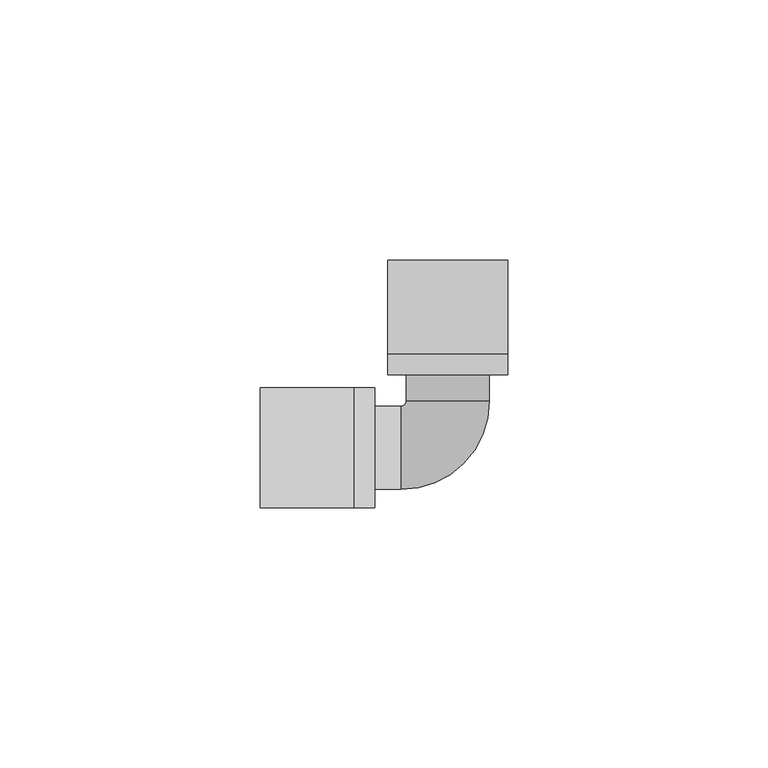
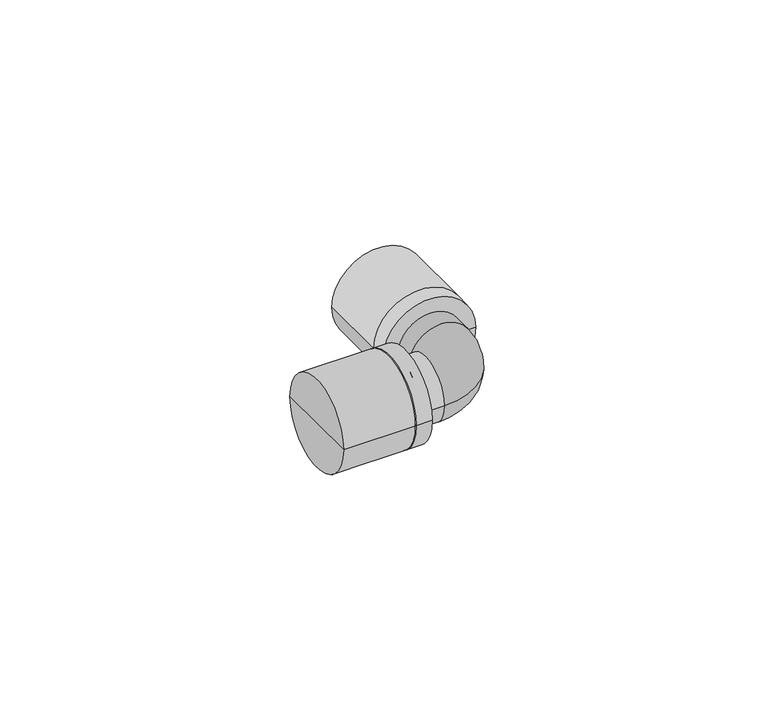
"""IFC4 building model written with IfcOpenShell, lengths in millimetres: pipe fitting geometry, KAN-therm Push 18x2 kolano PPSU : KAN-therm Push 18x2 kolano PPSU."""

import ifcopenshell
import ifcopenshell.guid

model = None  # the IFC model being written
_history = None  # IfcOwnerHistory: only IFC2X3 demands one
_inside = {}  # id of a spatial element -> (the spatial element, [elements in it])
_under = {}  # id of a project, library or spatial element -> (it, [spatial elements below it])
_declared = {}  # id of a project -> (the project, [libraries it declares])
_typed = {}  # id of a type object -> (the type object, [elements of that type])
_made_of = {}  # id of a material, layer set ... -> (it, [elements and type objects made of it])


def new_model(schema):
    """Start an empty IFC model of exactly this schema.

    Asked for "IFC4X3", IfcOpenShell would pick the latest addendum, in which some entities
    have other attributes; the version numbers below select the first issue.
    IFC2X3 requires an IfcOwnerHistory on every rooted entity: one is made here for all.
    """
    global model, _history
    if schema == "IFC4X3":
        model = ifcopenshell.file(schema_version=(4, 3, 0, 0))
    else:
        model = ifcopenshell.file(schema=schema)
    _inside.clear()
    _under.clear()
    _declared.clear()
    _typed.clear()
    _made_of.clear()
    _history = None
    if model.schema == "IFC2X3":
        org = make("IfcOrganization", Name="unknown")
        user = make(
            "IfcPersonAndOrganization",
            ThePerson=make("IfcPerson", FamilyName="unknown"),
            TheOrganization=org,
        )
        app = make(
            "IfcApplication",
            ApplicationDeveloper=org,
            Version="unknown",
            ApplicationFullName="unknown",
            ApplicationIdentifier="unknown",
        )
        _history = make(
            "IfcOwnerHistory",
            OwningUser=user,
            OwningApplication=app,
            ChangeAction="ADDED",
            CreationDate=0,
        )
    return model


def make(cls, **values):
    """One entity of the class cls with the attributes given. An attribute that is None is left unset."""
    return model.create_entity(
        cls, **{name: value for name, value in values.items() if value is not None}
    )


def rooted(cls, **values):
    """An entity with a GlobalId (a new one), such as an element, a storey or a relation."""
    return make(cls, GlobalId=ifcopenshell.guid.new(), OwnerHistory=_history, **values)


def si_unit(unit_type, name, prefix=None):
    """IfcSIUnit, for example si_unit("LENGTHUNIT", "METRE", prefix="MILLI")."""
    return make("IfcSIUnit", UnitType=unit_type, Prefix=prefix, Name=name)


def assignment(units):
    """IfcUnitAssignment: the units of a project."""
    return None if units is None else make("IfcUnitAssignment", Units=units)


def point(xyz):
    """IfcCartesianPoint."""
    return None if xyz is None else make("IfcCartesianPoint", Coordinates=xyz)


def direction(xyz):
    """IfcDirection."""
    return None if xyz is None else make("IfcDirection", DirectionRatios=xyz)


def frame(location, z_axis=None, x_axis=None):
    """IfcAxis2Placement3D, a coordinate frame: its origin and axes. An axis left out is left unset."""
    return make(
        "IfcAxis2Placement3D",
        Location=point(location),
        Axis=direction(z_axis),
        RefDirection=direction(x_axis),
    )


def origin():
    """The frame at (0, 0, 0) with its axes left unset."""
    return frame((0.0, 0.0, 0.0))


def place(relative_to, where):
    """IfcLocalPlacement: puts the frame where relative to a parent placement (None: the world)."""
    return make(
        "IfcLocalPlacement", PlacementRelTo=relative_to, RelativePlacement=where
    )


def context(
    kind, dimensions, precision=None, world=None, true_north=None, identifier=None
):
    """IfcGeometricRepresentationContext, for example the 3D "Model" context."""
    return make(
        "IfcGeometricRepresentationContext",
        ContextIdentifier=identifier,
        ContextType=kind,
        CoordinateSpaceDimension=dimensions,
        Precision=precision,
        WorldCoordinateSystem=world,
        TrueNorth=true_north,
    )


def project(units=None, contexts=None):
    """IfcProject with its units and contexts."""
    return rooted(
        "IfcProject",
        Name="project",
        RepresentationContexts=contexts,
        UnitsInContext=assignment(units),
    )


def spatial(cls, under=None, at=None, **own):
    """A site, building, storey or space (cls), placed at a placement, below another one or the project."""
    s = rooted(cls, ObjectPlacement=at, **own)
    if under is not None:
        _under.setdefault(under.id(), (under, []))[1].append(s)
    return s


def circle_curve(where, radius):
    """IfcCircle in the frame where."""
    return make("IfcCircle", Position=where, Radius=radius)


def ellipse_curve(where, semi_axis1, semi_axis2):
    """IfcEllipse in the frame where."""
    return make(
        "IfcEllipse", Position=where, SemiAxis1=semi_axis1, SemiAxis2=semi_axis2
    )


def trimmed(basis, trim1, trim2, sense, master):
    """IfcTrimmedCurve: the piece of a basis curve between two trims."""
    return make(
        "IfcTrimmedCurve",
        BasisCurve=basis,
        Trim1=trim1,
        Trim2=trim2,
        SenseAgreement=sense,
        MasterRepresentation=master,
    )


def shape(context_of_items, identifier, shape_type, items):
    """IfcShapeRepresentation: the items that make up one representation, for example the "Body"."""
    return make(
        "IfcShapeRepresentation",
        ContextOfItems=context_of_items,
        RepresentationIdentifier=identifier,
        RepresentationType=shape_type,
        Items=items,
    )


def source(mapping_origin, context_of_items, identifier, shape_type, items):
    """IfcRepresentationMap: a shape defined once, which mapped items show again and again."""
    return make(
        "IfcRepresentationMap",
        MappingOrigin=mapping_origin,
        MappedRepresentation=shape(context_of_items, identifier, shape_type, items),
    )


def transform(
    local_origin,
    x_axis=None,
    y_axis=None,
    z_axis=None,
    scale=None,
    scale2=None,
    scale3=None,
    uniform=True,
):
    """IfcCartesianTransformationOperator3D, or its non-uniform kind. x_axis, y_axis, z_axis: its Axis1, 2, 3."""
    if uniform:
        return make(
            "IfcCartesianTransformationOperator3D",
            Axis1=direction(x_axis),
            Axis2=direction(y_axis),
            LocalOrigin=point(local_origin),
            Scale=scale,
            Axis3=direction(z_axis),
        )
    return make(
        "IfcCartesianTransformationOperator3DnonUniform",
        Axis1=direction(x_axis),
        Axis2=direction(y_axis),
        LocalOrigin=point(local_origin),
        Scale=scale,
        Axis3=direction(z_axis),
        Scale2=scale2,
        Scale3=scale3,
    )


def mapped(mapping_source, mapping_target):
    """IfcMappedItem: shows the shape of a source again, moved by a transform."""
    return make(
        "IfcMappedItem", MappingSource=mapping_source, MappingTarget=mapping_target
    )


def made_of(thing, what):
    """Note that an element or type object is made of a material, layer set ...; save() writes the relation."""
    if what is not None:
        _made_of.setdefault(what.id(), (what, []))[1].append(thing)
    return thing


def element(
    cls,
    number,
    at=None,
    inside=None,
    cuts=None,
    type_object=None,
    material=None,
    context=None,
    identifier="Body",
    shape_type=None,
    held_by="IfcProductDefinitionShape",
    body=None,
    shapes=None,
    **own,
):
    """One element of the class cls, such as IfcWall. Its Tag is "e" and its number.

    at: its placement. inside: the storey or other place that contains it. cuts: it is an
    opening in that element (IfcRelVoidsElement). A single representation is given by context,
    identifier, shape_type and body (its items); several are given by shapes. held_by: the class
    of the entity that holds the representations. save() writes the other relations.
    """
    e = rooted(cls, Tag="e%d" % number, ObjectPlacement=at, **own)
    if body is not None:
        shapes = [shape(context, identifier, shape_type, body)]
    if shapes is not None:
        e.Representation = make(held_by, Representations=shapes)
    if inside is not None:
        _inside.setdefault(inside.id(), (inside, []))[1].append(e)
    if cuts is not None:
        rooted(
            "IfcRelVoidsElement", RelatingBuildingElement=cuts, RelatedOpeningElement=e
        )
    if type_object is not None:
        _typed.setdefault(type_object.id(), (type_object, []))[1].append(e)
    return made_of(e, material)


def aggregate(whole, parts):
    """IfcRelAggregates: a whole, such as a stair, and the parts it consists of."""
    return rooted("IfcRelAggregates", RelatingObject=whole, RelatedObjects=parts)


def save(model, path):
    """Write the relations noted so far, then the file.

    IfcRelAggregates (storeys below a building ...), IfcRelContainedInSpatialStructure (elements
    in a storey), IfcRelDefinesByType, IfcRelAssociatesMaterial and IfcRelDeclares: one each for
    every whole, place, type object, material and project.
    """
    for whole, parts in _under.values():
        aggregate(whole, parts)
    for where, things in _inside.values():
        rooted(
            "IfcRelContainedInSpatialStructure",
            RelatedElements=things,
            RelatingStructure=where,
        )
    for kind, things in _typed.values():
        rooted("IfcRelDefinesByType", RelatedObjects=things, RelatingType=kind)
    for what, things in _made_of.values():
        rooted("IfcRelAssociatesMaterial", RelatedObjects=things, RelatingMaterial=what)
    for by, libraries in _declared.values():
        rooted("IfcRelDeclares", RelatingContext=by, RelatedDefinitions=libraries)
    model.write(path)


def plane_surface(at):
    """IfcPlane: the flat surface through the origin of the frame at, square to its z axis."""
    return make("IfcPlane", Position=at)


def cylinder_surface(at, radius):
    """IfcCylindricalSurface: all points at the distance radius from the z axis of the frame at."""
    return make("IfcCylindricalSurface", Position=at, Radius=radius)


def revolved_surface(curve, axis_point, axis_direction):
    """IfcSurfaceOfRevolution: the curve turned about the line through axis_point along axis_direction."""
    return make(
        "IfcSurfaceOfRevolution",
        SweptCurve=make("IfcArbitraryOpenProfileDef", ProfileType="CURVE", Curve=curve),
        AxisPosition=make("IfcAxis1Placement", Location=point(axis_point), Axis=direction(axis_direction)),
    )


def advanced_brep(points, edges, surfaces, faces):
    """IfcAdvancedBrep: a solid bounded by faces that lie on surfaces and meet in shared edges.

    An edge is (start, end): straight between two places in points (the first is 0);
    or (start, end, curve); or (start, end, curve, False) where it runs against its curve.
    A face is (place in surfaces, loops), or (place, loops, False) where it looks against
    its surface's normal. A loop lists edges by number (the first is 1), with a minus sign
    where the edge is run from its end to its start. The first loop is the outer one.
    """
    corners = [point(p) for p in points]
    vertices = [make("IfcVertexPoint", VertexGeometry=c) for c in corners]
    made = []
    for start, end, *more in edges:
        made.append(
            make(
                "IfcEdgeCurve",
                EdgeStart=vertices[start],
                EdgeEnd=vertices[end],
                EdgeGeometry=more[0] if more else make("IfcPolyline", Points=[corners[start], corners[end]]),
                SameSense=more[1] if len(more) > 1 else True,
            )
        )
    hull = []
    for where, loops, *sense in faces:
        bounds = []
        for j, loop in enumerate(loops):
            ring = [make("IfcOrientedEdge", EdgeElement=made[abs(k) - 1], Orientation=k > 0) for k in loop]
            bounds.append(
                make(
                    "IfcFaceOuterBound" if j == 0 else "IfcFaceBound",
                    Bound=make("IfcEdgeLoop", EdgeList=ring),
                    Orientation=True,
                )
            )
        hull.append(make("IfcAdvancedFace", Bounds=bounds, FaceSurface=surfaces[where], SameSense=sense[0] if sense else True))
    return make("IfcAdvancedBrep", Outer=make("IfcClosedShell", CfsFaces=hull))


def pipe_fitting_d25bedc2(model_context):
    return source(origin(), model_context, "Body", "AdvancedBrep", [
        advanced_brep(
        [(-18.0, 11.5, 0.0), (-18.0, -11.5, 0.0), (-18.0, 0.0, 0.0), (-14.0, 11.5, 0.0), (-14.0, -11.5, 0.0), (-14.0, 0.0, 0.0)],
        [
            (0, 1, circle_curve(frame((-18.0, 0.0, 0.0), z_axis=(-1.0, 0.0, 0.0), x_axis=(0.0, -1.0, 0.0)), 11.5)),
            (1, 2),
            (2, 0),
            (1, 0, circle_curve(frame((-18.0, 0.0, 0.0), z_axis=(-1.0, 0.0, 0.0), x_axis=(0.0, -1.0, 0.0)), 11.5)),
            (3, 4, circle_curve(frame((-14.0, 0.0, 0.0), z_axis=(-1.0, 0.0, 0.0), x_axis=(0.0, -1.0, 0.0)), 11.5)),
            (4, 1),
            (0, 3),
            (4, 3, circle_curve(frame((-14.0, 0.0, 0.0), z_axis=(-1.0, 0.0, 0.0), x_axis=(0.0, -1.0, 0.0)), 11.5)),
            (5, 4),
            (3, 5),
        ],
        [
            plane_surface(frame((-18.0, 0.0, 0.0), z_axis=(-1.0, 0.0, 0.0), x_axis=(0.0, -1.0, 0.0))),
            cylinder_surface(frame((-2013.0, 0.0, 0.0), z_axis=(1.0, 0.0, 0.0), x_axis=(0.0, -1.0, 0.0)), 11.5),
            plane_surface(frame((-14.0, 0.0, 0.0), z_axis=(1.0, 0.0, 0.0), x_axis=(0.0, -1.0, 0.0))),
        ],
        [
            (0, [[1, 2, 3]]),
            (0, [[4, -3, -2]]),
            (1, [[5, 6, -1, 7]]),
            (1, [[8, -7, -4, -6]]),
            (2, [[9, -5, 10]]),
            (2, [[-10, -8, -9]]),
        ],
    ),
        advanced_brep(
        [(-36.0, 11.5, 0.0), (-36.0, -11.5, 0.0), (-36.0, 0.0, 0.0), (-18.0, 11.5, 0.0), (-18.0, -11.5, 0.0), (-18.0, 0.0, 0.0)],
        [
            (0, 1, circle_curve(frame((-36.0, 0.0, 0.0), z_axis=(-1.0, 0.0, 0.0), x_axis=(0.0, -1.0, 0.0)), 11.5)),
            (1, 2),
            (2, 0),
            (1, 0, circle_curve(frame((-36.0, 0.0, 0.0), z_axis=(-1.0, 0.0, 0.0), x_axis=(0.0, -1.0, 0.0)), 11.5)),
            (3, 4, circle_curve(frame((-18.0, 0.0, 0.0), z_axis=(-1.0, 0.0, 0.0), x_axis=(0.0, -1.0, 0.0)), 11.5)),
            (4, 1),
            (0, 3),
            (4, 3, circle_curve(frame((-18.0, 0.0, 0.0), z_axis=(-1.0, 0.0, 0.0), x_axis=(0.0, -1.0, 0.0)), 11.5)),
            (5, 4),
            (3, 5),
        ],
        [
            plane_surface(frame((-36.0, 0.0, 0.0), z_axis=(-1.0, 0.0, 0.0), x_axis=(0.0, -1.0, 0.0))),
            cylinder_surface(frame((-2013.0, 0.0, 0.0), z_axis=(1.0, 0.0, 0.0), x_axis=(0.0, -1.0, 0.0)), 11.5),
            plane_surface(frame((-18.0, 0.0, 0.0), z_axis=(1.0, 0.0, 0.0), x_axis=(0.0, -1.0, 0.0))),
        ],
        [
            (0, [[1, 2, 3]]),
            (0, [[4, -3, -2]]),
            (1, [[5, 6, -1, 7]]),
            (1, [[8, -7, -4, -6]]),
            (2, [[9, -5, 10]]),
            (2, [[-10, -8, -9]]),
        ],
    ),
        advanced_brep(
        [(11.5, 18.0, 0.0), (-11.5, 18.0, 0.0), (0.0, 18.0, 0.0), (11.5, 14.0, 0.0), (-11.5, 14.0, 0.0), (0.0, 14.0, 0.0)],
        [
            (0, 1, circle_curve(frame((0.0, 18.0, 0.0), z_axis=(0.0, 1.0, 0.0), x_axis=(-1.0, 0.0, 0.0)), 11.5)),
            (1, 2),
            (2, 0),
            (1, 0, circle_curve(frame((0.0, 18.0, 0.0), z_axis=(0.0, 1.0, 0.0), x_axis=(-1.0, 0.0, 0.0)), 11.5)),
            (3, 4, circle_curve(frame((0.0, 14.0, 0.0), z_axis=(0.0, 1.0, 0.0), x_axis=(-1.0, 0.0, 0.0)), 11.5)),
            (4, 1),
            (0, 3),
            (4, 3, circle_curve(frame((0.0, 14.0, 0.0), z_axis=(0.0, 1.0, 0.0), x_axis=(-1.0, 0.0, 0.0)), 11.5)),
            (5, 4),
            (3, 5),
        ],
        [
            plane_surface(frame((0.0, 18.0, 0.0), z_axis=(0.0, 1.0, 0.0), x_axis=(-1.0, 0.0, 0.0))),
            cylinder_surface(frame((0.0, 2013.0, 0.0), z_axis=(0.0, -1.0, 0.0), x_axis=(-1.0, 0.0, 0.0)), 11.5),
            plane_surface(frame((0.0, 14.0, 0.0), z_axis=(0.0, -1.0, 0.0), x_axis=(-1.0, 0.0, 0.0))),
        ],
        [
            (0, [[1, 2, 3]]),
            (0, [[4, -3, -2]]),
            (1, [[5, 6, -1, 7]]),
            (1, [[8, -7, -4, -6]]),
            (2, [[9, -5, 10]]),
            (2, [[-10, -8, -9]]),
        ],
    ),
        advanced_brep(
        [(11.5, 36.0, 0.0), (-11.5, 36.0, 0.0), (0.0, 36.0, 0.0), (11.5, 18.0, 0.0), (-11.5, 18.0, 0.0), (0.0, 18.0, 0.0)],
        [
            (0, 1, circle_curve(frame((0.0, 36.0, 0.0), z_axis=(0.0, 1.0, 0.0), x_axis=(-1.0, 0.0, 0.0)), 11.5)),
            (1, 2),
            (2, 0),
            (1, 0, circle_curve(frame((0.0, 36.0, 0.0), z_axis=(0.0, 1.0, 0.0), x_axis=(-1.0, 0.0, 0.0)), 11.5)),
            (3, 4, circle_curve(frame((0.0, 18.0, 0.0), z_axis=(0.0, 1.0, 0.0), x_axis=(-1.0, 0.0, 0.0)), 11.5)),
            (4, 1),
            (0, 3),
            (4, 3, circle_curve(frame((0.0, 18.0, 0.0), z_axis=(0.0, 1.0, 0.0), x_axis=(-1.0, 0.0, 0.0)), 11.5)),
            (5, 4),
            (3, 5),
        ],
        [
            plane_surface(frame((0.0, 36.0, 0.0), z_axis=(0.0, 1.0, 0.0), x_axis=(-1.0, 0.0, 0.0))),
            cylinder_surface(frame((0.0, 2013.0, 0.0), z_axis=(0.0, -1.0, 0.0), x_axis=(-1.0, 0.0, 0.0)), 11.5),
            plane_surface(frame((0.0, 18.0, 0.0), z_axis=(0.0, -1.0, 0.0), x_axis=(-1.0, 0.0, 0.0))),
        ],
        [
            (0, [[1, 2, 3]]),
            (0, [[4, -3, -2]]),
            (1, [[5, 6, -1, 7]]),
            (1, [[8, -7, -4, -6]]),
            (2, [[9, -5, 10]]),
            (2, [[-10, -8, -9]]),
        ],
    ),
        advanced_brep(
        [(-8.0, 18.0, 0.0), (8.0, 18.0, 0.0), (-18.0, 8.0, 0.0), (-18.0, -8.0, 0.0), (-9.0, -8.0, 0.0), (-9.0, 8.0, 0.0), (-8.0, 9.0, 0.0), (8.0, 9.0, 0.0)],
        [
            (0, 1, circle_curve(frame((0.0, 18.0, 0.0), z_axis=(0.0, 1.0, 0.0), x_axis=(1.0, 0.0, 0.0)), 8.0)),
            (1, 0, circle_curve(frame((0.0, 18.0, 0.0), z_axis=(0.0, 1.0, 0.0), x_axis=(1.0, 0.0, 0.0)), 8.0)),
            (2, 3, circle_curve(frame((-18.0, 0.0, 0.0), z_axis=(-1.0, 0.0, 0.0), x_axis=(0.0, -1.0, 0.0)), 8.0)),
            (3, 2, circle_curve(frame((-18.0, 0.0, 0.0), z_axis=(-1.0, 0.0, 0.0), x_axis=(0.0, -1.0, 0.0)), 8.0)),
            (4, 5, circle_curve(frame((-9.0, 0.0, 0.0), z_axis=(-1.0, 0.0, 0.0), x_axis=(0.0, -1.0, 0.0)), 8.0)),
            (5, 2),
            (3, 4),
            (5, 4, circle_curve(frame((-9.0, 0.0, 0.0), z_axis=(-1.0, 0.0, 0.0), x_axis=(0.0, -1.0, 0.0)), 8.0)),
            (0, 6),
            (6, 7, circle_curve(frame((0.0, 9.0, 0.0), z_axis=(0.0, 1.0, 0.0), x_axis=(1.0, 0.0, 0.0)), 8.0)),
            (7, 1),
            (7, 6, circle_curve(frame((0.0, 9.0, 0.0), z_axis=(0.0, 1.0, 0.0), x_axis=(1.0, 0.0, 0.0)), 8.0)),
            (4, 7, circle_curve(frame((-9.0, 9.0, 0.0), z_axis=(0.0, 0.0, 1.0), x_axis=(1.0, 0.0, 0.0)), 17.0)),
            (6, 5, circle_curve(frame((-9.0, 9.0, 0.0), z_axis=(0.0, 0.0, -1.0), x_axis=(1.0, 0.0, 0.0)), 1.0)),
        ],
        [
            plane_surface(frame((0.0, 18.0, 0.0), z_axis=(0.0, 1.0, 0.0), x_axis=(0.0, 0.0, 1.0))),
            plane_surface(frame((-18.0, 0.0, 0.0), z_axis=(-1.0, 0.0, 0.0), x_axis=(0.0, 0.0, 1.0))),
            cylinder_surface(frame((-9.0, 0.0, 0.0), z_axis=(1.0, 0.0, 0.0), x_axis=(0.0, -1.0, 0.0)), 8.0),
            cylinder_surface(frame((0.0, 18.0, 0.0), z_axis=(0.0, 1.0, 0.0), x_axis=(1.0, 0.0, 0.0)), 8.0),
            revolved_surface(trimmed(ellipse_curve(frame((0.0, 9.0, 0.0), z_axis=(0.0, 1.0, 0.0), x_axis=(1.0, 0.0, 0.0)), 8.0, 8.0), [point((-8.0, 9.0, 0.0))], [point((8.0, 9.0, 0.0))], True, "CARTESIAN"), (-9.0, 9.0, 0.0), (0.0, 0.0, -1.0)),
            revolved_surface(trimmed(ellipse_curve(frame((0.0, 9.0, 0.0), z_axis=(0.0, 1.0, 0.0), x_axis=(1.0, 0.0, 0.0)), 8.0, 8.0), [point((8.0, 9.0, 0.0))], [point((-8.0, 9.0, 0.0))], True, "CARTESIAN"), (-9.0, 9.0, 0.0), (0.0, 0.0, -1.0)),
        ],
        [
            (0, [[1, 2]]),
            (1, [[3, 4]]),
            (2, [[5, 6, -4, 7]]),
            (2, [[8, -7, -3, -6]]),
            (3, [[-1, 9, 10, 11]]),
            (3, [[-2, -11, 12, -9]]),
            (4, [[13, -10, 14, -5]]),
            (5, [[-14, -12, -13, -8]]),
        ],
    ),
    ])


if __name__ == "__main__":
    model = new_model("IFC4")
    model_context = context("Model", 3, world=origin())
    ifc_project = project(units=[si_unit("LENGTHUNIT", "METRE", prefix="MILLI")], contexts=[model_context])
    site = spatial("IfcSite", under=ifc_project)
    building = spatial("IfcBuilding", under=site)
    placement = place(None, origin())
    pipe_fitting_shape = pipe_fitting_d25bedc2(model_context)
    element("IfcPipeFitting", 1, ObjectType="KAN-therm Push 18x2 kolano PPSU : KAN-therm Push 18x2 kolano PPSU", at=placement, inside=building, context=model_context, shape_type="MappedRepresentation", body=[
        mapped(pipe_fitting_shape, transform((0.0, 0.0, 0.0), x_axis=(1.0, 0.0, 0.0), y_axis=(0.0, 1.0, 0.0), z_axis=(0.0, 0.0, 1.0))),
    ])
    save(model, "model.ifc")
